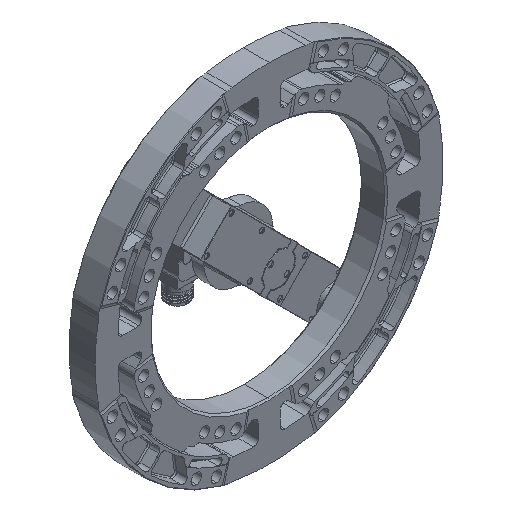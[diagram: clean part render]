
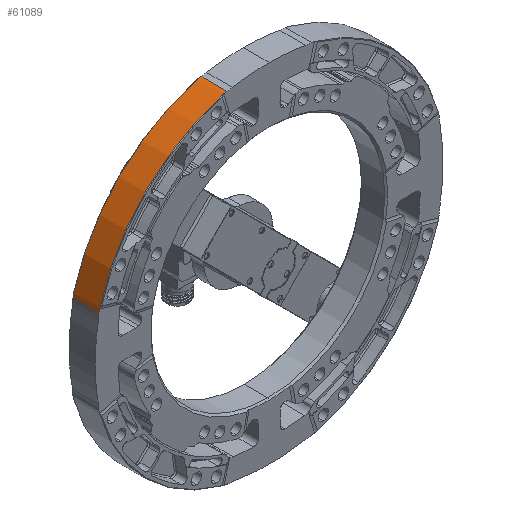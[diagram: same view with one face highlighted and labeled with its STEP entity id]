
A CAD part, isometric view. The second image highlights one B-rep face of the part: STEP entity #61089.
In plain terms, the highlighted cylindrical face has radius 171.45 mm (diameter 342.9 mm), a partial arc.
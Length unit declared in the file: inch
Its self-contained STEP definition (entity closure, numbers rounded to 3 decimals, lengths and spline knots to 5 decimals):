
#1593 = EDGE_CURVE ( 'NONE', #56575, #32154, #19260, .T. ) ;
#4838 = CARTESIAN_POINT ( 'NONE',  ( 0., -0.5, 0. ) ) ;
#5201 = CARTESIAN_POINT ( 'NONE',  ( -1.7699, -0.50167, 6.51384 ) ) ;
#5286 = VERTEX_POINT ( 'NONE', #18573 ) ;
#5563 = DIRECTION ( 'NONE',  ( 0., 0., 1. ) ) ;
#6786 = ORIENTED_EDGE ( 'NONE', *, *, #15011, .T. ) ;
#8644 = CARTESIAN_POINT ( 'NONE',  ( -6.55148, 0.5, 1.625 ) ) ;
#8741 = CARTESIAN_POINT ( 'NONE',  ( -1.78354, -0.505, 6.51011 ) ) ;
#9238 = DIRECTION ( 'NONE',  ( 0., 1., 0. ) ) ;
#9247 = EDGE_CURVE ( 'NONE', #75630, #72040, #51182, .T. ) ;
#9959 = ORIENTED_EDGE ( 'NONE', *, *, #1593, .F. ) ;
#10455 = CARTESIAN_POINT ( 'NONE',  ( -1.75606, -0.5, 6.51759 ) ) ;
#11592 = EDGE_CURVE ( 'NONE', #28900, #71843, #43551, .T. ) ;
#12520 = AXIS2_PLACEMENT_3D ( 'NONE', #28463, #53158, #64499 ) ;
#12549 = AXIS2_PLACEMENT_3D ( 'NONE', #68862, #13430, #69644 ) ;
#12582 = EDGE_CURVE ( 'NONE', #35753, #63186, #65648, .T. ) ;
#13430 = DIRECTION ( 'NONE',  ( 0., -1., 0. ) ) ;
#14915 = CARTESIAN_POINT ( 'NONE',  ( -6.55148, -0.525, 1.625 ) ) ;
#15011 = EDGE_CURVE ( 'NONE', #35753, #5286, #79925, .T. ) ;
#16354 = CARTESIAN_POINT ( 'NONE',  ( -6.52134, -0.5, 1.74202 ) ) ;
#17473 = ORIENTED_EDGE ( 'NONE', *, *, #43580, .T. ) ;
#17976 = CARTESIAN_POINT ( 'NONE',  ( -6.51759, -0.5, 1.75606 ) ) ;
#18102 = VECTOR ( 'NONE', #58015, 39.37008 ) ;
#18202 = DIRECTION ( 'NONE',  ( 0., 0., 1. ) ) ;
#18445 = EDGE_CURVE ( 'NONE', #56575, #58488, #69717, .T. ) ;
#18523 = CARTESIAN_POINT ( 'NONE',  ( 0., 0.5896, 0. ) ) ;
#18573 = CARTESIAN_POINT ( 'NONE',  ( -6.51011, -0.505, 1.78354 ) ) ;
#18915 = DIRECTION ( 'NONE',  ( 0., 1., 0. ) ) ;
#19260 = CIRCLE ( 'NONE', #74805, 6.75 ) ;
#20711 = VERTEX_POINT ( 'NONE', #32153 ) ;
#21310 = EDGE_LOOP ( 'NONE', ( #55528, #23119, #24548, #68826, #6786, #79113, #23780, #9959, #77524, #26302, #17473, #44552 ) ) ;
#22164 = LINE ( 'NONE', #14915, #52754 ) ;
#22615 = CARTESIAN_POINT ( 'NONE',  ( -6.52134, 0.5, 1.74202 ) ) ;
#23026 = CARTESIAN_POINT ( 'NONE',  ( -1.7699, 0.50167, 6.51384 ) ) ;
#23119 = ORIENTED_EDGE ( 'NONE', *, *, #11592, .T. ) ;
#23226 = CARTESIAN_POINT ( 'NONE',  ( -6.51011, -0.505, 1.78354 ) ) ;
#23780 = ORIENTED_EDGE ( 'NONE', *, *, #63130, .T. ) ;
#23805 = CARTESIAN_POINT ( 'NONE',  ( -6.52134, -0.5, 1.74202 ) ) ;
#24548 = ORIENTED_EDGE ( 'NONE', *, *, #79882, .F. ) ;
#25301 = DIRECTION ( 'NONE',  ( 0., 0., 1. ) ) ;
#26302 = ORIENTED_EDGE ( 'NONE', *, *, #38727, .T. ) ;
#27622 = CARTESIAN_POINT ( 'NONE',  ( -1.625, -0.525, 6.55148 ) ) ;
#28220 = CIRCLE ( 'NONE', #64441, 6.75 ) ;
#28463 = CARTESIAN_POINT ( 'NONE',  ( 0., 0.5, 0. ) ) ;
#28703 = DIRECTION ( 'NONE',  ( 1., 0., 0. ) ) ;
#28900 = VERTEX_POINT ( 'NONE', #22615 ) ;
#30481 = B_SPLINE_CURVE_WITH_KNOTS ( 'NONE', 3,
 ( #49357, #31129, #36400, #74001 ),
 .UNSPECIFIED., .F., .F.,
 ( 4, 4 ),
 ( 0., 0.0011 ),
 .UNSPECIFIED. ) ;
#31129 = CARTESIAN_POINT ( 'NONE',  ( -6.51384, 0.50167, 1.7699 ) ) ;
#32153 = CARTESIAN_POINT ( 'NONE',  ( -1.74202, 0.5, 6.52134 ) ) ;
#32154 = VERTEX_POINT ( 'NONE', #75006 ) ;
#34731 = DIRECTION ( 'NONE',  ( 0., 1., 0. ) ) ;
#34752 = CARTESIAN_POINT ( 'NONE',  ( -1.78354, -0.505, 6.51011 ) ) ;
#35753 = VERTEX_POINT ( 'NONE', #23805 ) ;
#36400 = CARTESIAN_POINT ( 'NONE',  ( -6.51759, 0.5, 1.75606 ) ) ;
#38606 = CARTESIAN_POINT ( 'NONE',  ( -1.625, 0.5, 6.55148 ) ) ;
#38727 = EDGE_CURVE ( 'NONE', #58488, #20711, #51257, .T. ) ;
#42504 = CARTESIAN_POINT ( 'NONE',  ( 0., 0.505, 0. ) ) ;
#43551 = CIRCLE ( 'NONE', #12520, 6.75 ) ;
#43580 = EDGE_CURVE ( 'NONE', #20711, #72040, #45381, .T. ) ;
#44552 = ORIENTED_EDGE ( 'NONE', *, *, #9247, .F. ) ;
#45381 = B_SPLINE_CURVE_WITH_KNOTS ( 'NONE', 3,
 ( #65531, #59474, #23026, #46540 ),
 .UNSPECIFIED., .F., .F.,
 ( 4, 4 ),
 ( 0., 0.0011 ),
 .UNSPECIFIED. ) ;
#46328 = VERTEX_POINT ( 'NONE', #8741 ) ;
#46540 = CARTESIAN_POINT ( 'NONE',  ( -1.78354, 0.505, 6.51011 ) ) ;
#49357 = CARTESIAN_POINT ( 'NONE',  ( -6.51011, 0.505, 1.78354 ) ) ;
#51182 = CIRCLE ( 'NONE', #76952, 6.75 ) ;
#51257 = CIRCLE ( 'NONE', #12549, 6.75 ) ;
#52754 = VECTOR ( 'NONE', #9238, 39.37008 ) ;
#53158 = DIRECTION ( 'NONE',  ( 0., -1., 0. ) ) ;
#53932 = CARTESIAN_POINT ( 'NONE',  ( -6.51011, 0.505, 1.78354 ) ) ;
#54411 = CARTESIAN_POINT ( 'NONE',  ( -6.51384, -0.50167, 1.7699 ) ) ;
#54968 = CARTESIAN_POINT ( 'NONE',  ( 0., -0.505, 0. ) ) ;
#55298 = DIRECTION ( 'NONE',  ( 0., -1., 0. ) ) ;
#55347 = AXIS2_PLACEMENT_3D ( 'NONE', #74260, #55298, #25301 ) ;
#55528 = ORIENTED_EDGE ( 'NONE', *, *, #75175, .T. ) ;
#56049 = B_SPLINE_CURVE_WITH_KNOTS ( 'NONE', 3,
 ( #34752, #5201, #10455, #73169 ),
 .UNSPECIFIED., .F., .F.,
 ( 4, 4 ),
 ( 0., 0.0011 ),
 .UNSPECIFIED. ) ;
#56575 = VERTEX_POINT ( 'NONE', #57372 ) ;
#57372 = CARTESIAN_POINT ( 'NONE',  ( -1.625, -0.5, 6.55148 ) ) ;
#58015 = DIRECTION ( 'NONE',  ( 0., 1., 0. ) ) ;
#58488 = VERTEX_POINT ( 'NONE', #38606 ) ;
#59474 = CARTESIAN_POINT ( 'NONE',  ( -1.75606, 0.5, 6.51759 ) ) ;
#61089 = ADVANCED_FACE ( 'NONE', ( #73552 ), #61416, .T. ) ;
#61416 = CYLINDRICAL_SURFACE ( 'NONE', #72780, 6.75 ) ;
#62012 = CARTESIAN_POINT ( 'NONE',  ( -1.78354, 0.505, 6.51011 ) ) ;
#63130 = EDGE_CURVE ( 'NONE', #46328, #32154, #56049, .T. ) ;
#63186 = VERTEX_POINT ( 'NONE', #78827 ) ;
#64441 = AXIS2_PLACEMENT_3D ( 'NONE', #54968, #34731, #5563 ) ;
#64499 = DIRECTION ( 'NONE',  ( 0., 0., 1. ) ) ;
#65531 = CARTESIAN_POINT ( 'NONE',  ( -1.74202, 0.5, 6.52134 ) ) ;
#65648 = CIRCLE ( 'NONE', #55347, 6.75 ) ;
#67171 = DIRECTION ( 'NONE',  ( 0., 1., 0. ) ) ;
#68675 = DIRECTION ( 'NONE',  ( 0., 0., 1. ) ) ;
#68826 = ORIENTED_EDGE ( 'NONE', *, *, #12582, .F. ) ;
#68862 = CARTESIAN_POINT ( 'NONE',  ( 0., 0.5, 0. ) ) ;
#69644 = DIRECTION ( 'NONE',  ( 1., 0., 0. ) ) ;
#69717 = LINE ( 'NONE', #27622, #18102 ) ;
#71843 = VERTEX_POINT ( 'NONE', #8644 ) ;
#72040 = VERTEX_POINT ( 'NONE', #62012 ) ;
#72780 = AXIS2_PLACEMENT_3D ( 'NONE', #18523, #18915, #68675 ) ;
#73169 = CARTESIAN_POINT ( 'NONE',  ( -1.74202, -0.5, 6.52134 ) ) ;
#73552 = FACE_OUTER_BOUND ( 'NONE', #21310, .T. ) ;
#74001 = CARTESIAN_POINT ( 'NONE',  ( -6.52134, 0.5, 1.74202 ) ) ;
#74260 = CARTESIAN_POINT ( 'NONE',  ( 0., -0.5, 0. ) ) ;
#74805 = AXIS2_PLACEMENT_3D ( 'NONE', #4838, #77257, #28703 ) ;
#75006 = CARTESIAN_POINT ( 'NONE',  ( -1.74202, -0.5, 6.52134 ) ) ;
#75175 = EDGE_CURVE ( 'NONE', #75630, #28900, #30481, .T. ) ;
#75630 = VERTEX_POINT ( 'NONE', #53932 ) ;
#76193 = EDGE_CURVE ( 'NONE', #5286, #46328, #28220, .T. ) ;
#76952 = AXIS2_PLACEMENT_3D ( 'NONE', #42504, #67171, #18202 ) ;
#77257 = DIRECTION ( 'NONE',  ( 0., -1., 0. ) ) ;
#77524 = ORIENTED_EDGE ( 'NONE', *, *, #18445, .T. ) ;
#78827 = CARTESIAN_POINT ( 'NONE',  ( -6.55148, -0.5, 1.625 ) ) ;
#79113 = ORIENTED_EDGE ( 'NONE', *, *, #76193, .T. ) ;
#79882 = EDGE_CURVE ( 'NONE', #63186, #71843, #22164, .T. ) ;
#79925 = B_SPLINE_CURVE_WITH_KNOTS ( 'NONE', 3,
 ( #16354, #17976, #54411, #23226 ),
 .UNSPECIFIED., .F., .F.,
 ( 4, 4 ),
 ( 0., 0.0011 ),
 .UNSPECIFIED. ) ;
